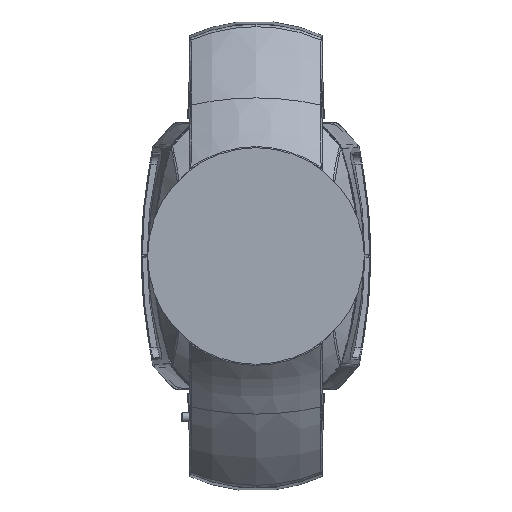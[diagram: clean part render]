
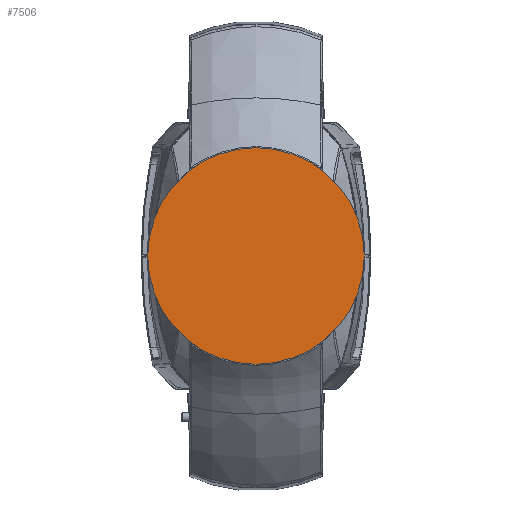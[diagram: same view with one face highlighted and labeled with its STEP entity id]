
A CAD part, front view. The second image highlights one B-rep face of the part: STEP entity #7506.
In plain terms, the highlighted planar face has unit normal (0, -1, 0).
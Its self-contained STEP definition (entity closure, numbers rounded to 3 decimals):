
#7441=CARTESIAN_POINT('',(0.,-43.8,0.));
#7442=DIRECTION('',(0.,1.,0.));
#7443=DIRECTION('',(1.,0.,0.));
#7444=AXIS2_PLACEMENT_3D('',#7441,#7442,#7443);
#7449=CARTESIAN_POINT('',(0.,-43.8,0.));
#7450=DIRECTION('',(0.,1.,0.));
#7451=DIRECTION('',(-1.,0.,0.));
#7452=AXIS2_PLACEMENT_3D('',#7449,#7450,#7451);
#7487=CARTESIAN_POINT('',(108.5,-43.8,0.));
#7488=CARTESIAN_POINT('',(-108.5,-43.8,0.));
#7489=VERTEX_POINT('',#7487);
#7490=VERTEX_POINT('',#7488);
#7495=CARTESIAN_POINT('',(0.,-43.8,0.));
#7496=DIRECTION('',(0.,1.,0.));
#7497=DIRECTION('',(1.,0.,0.));
#7498=AXIS2_PLACEMENT_3D('',#7495,#7496,#7497);
#7499=PLANE('',#7498);
#7501=ORIENTED_EDGE('',*,*,#7500,.T.);
#7503=ORIENTED_EDGE('',*,*,#7502,.T.);
#7504=EDGE_LOOP('',(#7501,#7503));
#7505=FACE_OUTER_BOUND('',#7504,.F.);
#7445=CIRCLE('',#7444,108.5);
#7453=CIRCLE('',#7452,108.5);
#7500=EDGE_CURVE('',#7489,#7490,#7445,.T.);
#7502=EDGE_CURVE('',#7490,#7489,#7453,.T.);
#7506=ADVANCED_FACE('',(#7505),#7499,.F.);
